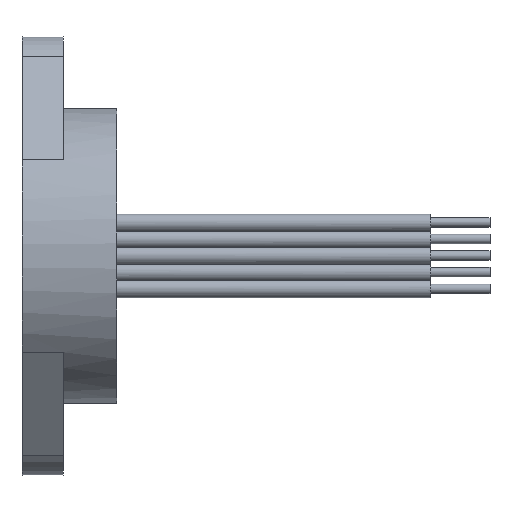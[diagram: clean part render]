
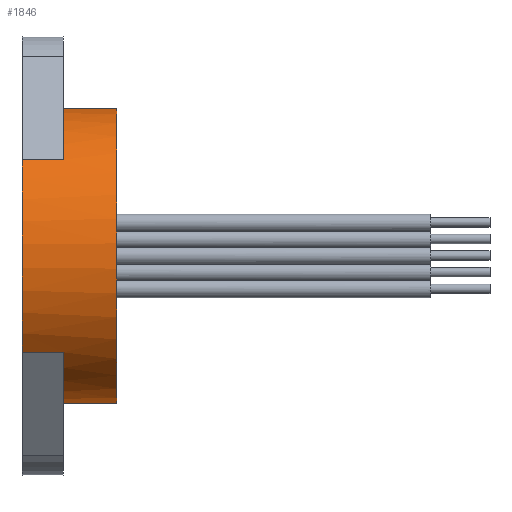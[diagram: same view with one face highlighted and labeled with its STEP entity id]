
A CAD part, front view. The second image highlights one B-rep face of the part: STEP entity #1846.
In plain terms, the highlighted cylindrical face has radius 12.5 mm (diameter 25 mm), a partial arc.
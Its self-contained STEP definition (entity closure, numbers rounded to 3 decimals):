
#11 = DIRECTION ( 'NONE',  ( 0., 0., 1. ) ) ;
#125 = VECTOR ( 'NONE', #2005, 1000. ) ;
#142 = AXIS2_PLACEMENT_3D ( 'NONE', #6585, #3954, #7095 ) ;
#169 = CARTESIAN_POINT ( 'NONE',  ( -2.9, -1.317, 12.408 ) ) ;
#261 = DIRECTION ( 'NONE',  ( 1., 0., 0. ) ) ;
#340 = DIRECTION ( 'NONE',  ( -1., 0., 0. ) ) ;
#637 = VERTEX_POINT ( 'NONE', #7299 ) ;
#737 = FACE_OUTER_BOUND ( 'NONE', #6907, .T. ) ;
#753 = VECTOR ( 'NONE', #5830, 1000. ) ;
#782 = EDGE_CURVE ( 'NONE', #4596, #1907, #4434, .T. ) ;
#867 = CARTESIAN_POINT ( 'NONE',  ( -3.4, -1.317, -12.408 ) ) ;
#1372 = AXIS2_PLACEMENT_3D ( 'NONE', #5166, #7684, #2530 ) ;
#1383 = LINE ( 'NONE', #169, #125 ) ;
#1799 = CARTESIAN_POINT ( 'NONE',  ( -11.4, -9.306, 8.124 ) ) ;
#1809 = ORIENTED_EDGE ( 'NONE', *, *, #8125, .F. ) ;
#1846 = ADVANCED_FACE ( 'NONE', ( #737 ), #5894, .T. ) ;
#1907 = VERTEX_POINT ( 'NONE', #7916 ) ;
#1922 = CARTESIAN_POINT ( 'NONE',  ( -11.4, 0.194, 0. ) ) ;
#1988 = DIRECTION ( 'NONE',  ( -1., 0., 0. ) ) ;
#2005 = DIRECTION ( 'NONE',  ( 1., 0., 0. ) ) ;
#2143 = LINE ( 'NONE', #4029, #7588 ) ;
#2244 = AXIS2_PLACEMENT_3D ( 'NONE', #1922, #3894, #11 ) ;
#2250 = EDGE_CURVE ( 'NONE', #4150, #637, #2880, .T. ) ;
#2530 = DIRECTION ( 'NONE',  ( 0., 0., 1. ) ) ;
#2559 = DIRECTION ( 'NONE',  ( 0., 0., 1. ) ) ;
#2659 = EDGE_CURVE ( 'NONE', #637, #5134, #5787, .T. ) ;
#2880 = CIRCLE ( 'NONE', #5937, 12.5 ) ;
#2916 = CIRCLE ( 'NONE', #2244, 12.5 ) ;
#3025 = ORIENTED_EDGE ( 'NONE', *, *, #7785, .F. ) ;
#3191 = CARTESIAN_POINT ( 'NONE',  ( -11.4, -9.306, -8.124 ) ) ;
#3340 = ORIENTED_EDGE ( 'NONE', *, *, #782, .F. ) ;
#3420 = VERTEX_POINT ( 'NONE', #5511 ) ;
#3475 = CARTESIAN_POINT ( 'NONE',  ( -7.9, -9.306, 8.124 ) ) ;
#3798 = CARTESIAN_POINT ( 'NONE',  ( -7.9, -9.306, -8.124 ) ) ;
#3809 = VECTOR ( 'NONE', #340, 1000. ) ;
#3894 = DIRECTION ( 'NONE',  ( -1., 0., 0. ) ) ;
#3954 = DIRECTION ( 'NONE',  ( -1., 0., 0. ) ) ;
#4029 = CARTESIAN_POINT ( 'NONE',  ( -7.9, -9.306, -8.124 ) ) ;
#4095 = CARTESIAN_POINT ( 'NONE',  ( -7.9, -9.306, 8.124 ) ) ;
#4150 = VERTEX_POINT ( 'NONE', #3798 ) ;
#4159 = AXIS2_PLACEMENT_3D ( 'NONE', #5642, #8177, #2559 ) ;
#4434 = CIRCLE ( 'NONE', #4159, 12.5 ) ;
#4518 = VERTEX_POINT ( 'NONE', #1799 ) ;
#4596 = VERTEX_POINT ( 'NONE', #4095 ) ;
#4639 = CARTESIAN_POINT ( 'NONE',  ( -7.9, 0.194, 0. ) ) ;
#4664 = CARTESIAN_POINT ( 'NONE',  ( -2.9, -1.317, -12.408 ) ) ;
#4863 = ORIENTED_EDGE ( 'NONE', *, *, #2250, .T. ) ;
#5134 = VERTEX_POINT ( 'NONE', #867 ) ;
#5166 = CARTESIAN_POINT ( 'NONE',  ( -29.87, 0.194, 0. ) ) ;
#5216 = ORIENTED_EDGE ( 'NONE', *, *, #7769, .F. ) ;
#5268 = ORIENTED_EDGE ( 'NONE', *, *, #6001, .T. ) ;
#5511 = CARTESIAN_POINT ( 'NONE',  ( -3.4, -1.317, 12.408 ) ) ;
#5642 = CARTESIAN_POINT ( 'NONE',  ( -7.9, 0.194, 0. ) ) ;
#5787 = LINE ( 'NONE', #4664, #753 ) ;
#5830 = DIRECTION ( 'NONE',  ( 1., 0., 0. ) ) ;
#5884 = DIRECTION ( 'NONE',  ( 0., 0., -1. ) ) ;
#5894 = CYLINDRICAL_SURFACE ( 'NONE', #1372, 12.5 ) ;
#5937 = AXIS2_PLACEMENT_3D ( 'NONE', #4639, #261, #5884 ) ;
#6001 = EDGE_CURVE ( 'NONE', #4596, #4518, #6695, .T. ) ;
#6399 = EDGE_CURVE ( 'NONE', #5134, #3420, #6902, .T. ) ;
#6468 = ORIENTED_EDGE ( 'NONE', *, *, #6399, .T. ) ;
#6546 = VERTEX_POINT ( 'NONE', #3191 ) ;
#6585 = CARTESIAN_POINT ( 'NONE',  ( -3.4, 0.194, 0. ) ) ;
#6695 = LINE ( 'NONE', #3475, #3809 ) ;
#6902 = CIRCLE ( 'NONE', #142, 12.5 ) ;
#6907 = EDGE_LOOP ( 'NONE', ( #4863, #7806, #6468, #5216, #3340, #5268, #3025, #1809 ) ) ;
#7095 = DIRECTION ( 'NONE',  ( 0., 0., 1. ) ) ;
#7299 = CARTESIAN_POINT ( 'NONE',  ( -7.9, -1.317, -12.408 ) ) ;
#7588 = VECTOR ( 'NONE', #1988, 1000. ) ;
#7684 = DIRECTION ( 'NONE',  ( -1., 0., 0. ) ) ;
#7769 = EDGE_CURVE ( 'NONE', #1907, #3420, #1383, .T. ) ;
#7785 = EDGE_CURVE ( 'NONE', #6546, #4518, #2916, .T. ) ;
#7806 = ORIENTED_EDGE ( 'NONE', *, *, #2659, .T. ) ;
#7916 = CARTESIAN_POINT ( 'NONE',  ( -7.9, -1.317, 12.408 ) ) ;
#8125 = EDGE_CURVE ( 'NONE', #4150, #6546, #2143, .T. ) ;
#8177 = DIRECTION ( 'NONE',  ( -1., 0., 0. ) ) ;
